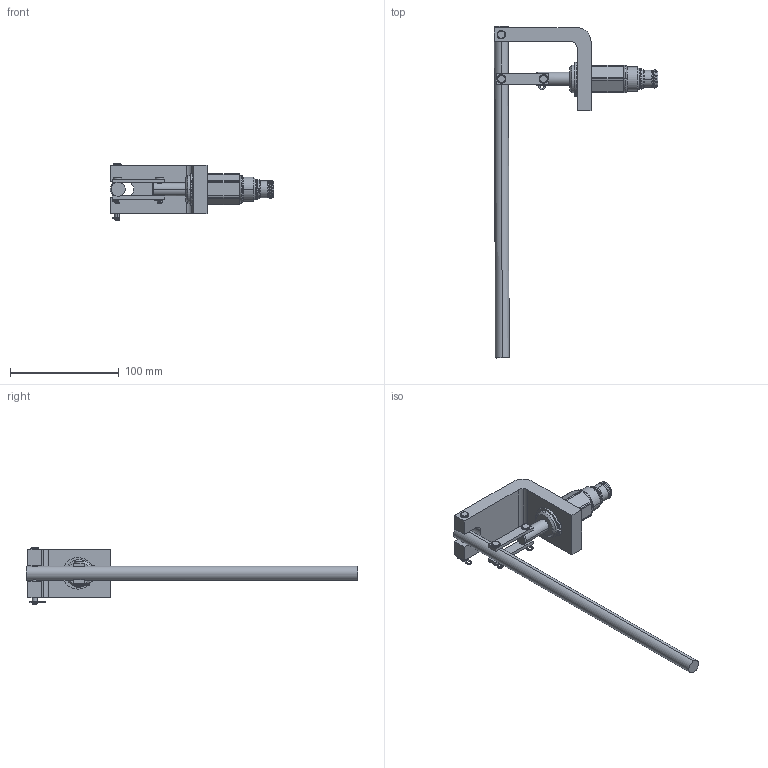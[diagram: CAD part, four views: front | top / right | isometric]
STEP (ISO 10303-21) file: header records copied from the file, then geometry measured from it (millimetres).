
FILE_DESCRIPTION((''),'2;1');
FILE_NAME('U:\Solid model CD\Solid model full\Mechanical\STEP\DEHPC0L-3D Full.stp','2008-07-28T16:07:00',('Dan'),(''),'Autodesk Inventor 9','Autodesk Inventor 9','');
FILE_SCHEMA(('AUTOMOTIVE_DESIGN { 1 0 10303 214 1 1 1 1 }'));
Length unit declared in the file: inch
Products named in the file (17): DEHPC0L-3D Full; DEHPC0L-3D Full1; DEHPC0L-3D Full2; DEHPC0L-3D Full3; DEHPC0L-3D Full4; DEHPC0L-3D Full5; DEHPC0L-3D Full6; DEHPC0L-3D Full7; DEHPC0L-3D Full8; DEHPC0L-3D Full9; DEHPC0L-3D Full10; DEHPC0L-3D Full11; DEHPC0L-3D Full12; DEHPC0L-3D Full13; DEHPC0L-3D Full14; DEHPC0L-3D Full15; DEHPC0L-3D Full16
Assembly tree (16 placements, depth 2):
  DEHPC0L-3D Full
    DEHPC0L-3D Full1
    DEHPC0L-3D Full2
    DEHPC0L-3D Full3
    DEHPC0L-3D Full4
    DEHPC0L-3D Full5
    DEHPC0L-3D Full6
    DEHPC0L-3D Full7
    DEHPC0L-3D Full8
    DEHPC0L-3D Full9
    DEHPC0L-3D Full10
    DEHPC0L-3D Full11
    DEHPC0L-3D Full12
    DEHPC0L-3D Full13
    DEHPC0L-3D Full14
    DEHPC0L-3D Full15
    DEHPC0L-3D Full16
Bounding box: 150.14 x 304.84 x 52.32 mm (x, y, z)
Volume: 155480.5 mm3; surface area: 46963.4 mm2
Topology: 16 solids, 16 shells, 312 faces, 728 edges, 452 vertices
Faces by surface type: cylinder 161, plane 75, torus 48, cone 28
Entity records: 10069 total; most frequent: CARTESIAN_POINT 2210, DIRECTION 1735, ORIENTED_EDGE 1456, EDGE_CURVE 728, AXIS2_PLACEMENT_3D 727, VERTEX_POINT 452, CIRCLE 376, EDGE_LOOP 352
